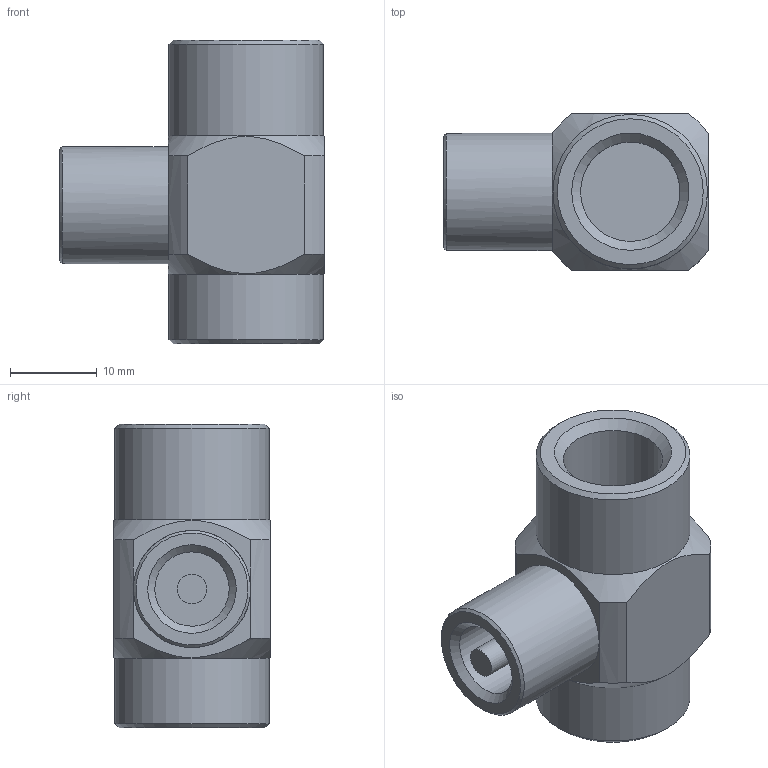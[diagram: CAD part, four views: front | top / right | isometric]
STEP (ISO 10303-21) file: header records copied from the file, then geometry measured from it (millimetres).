
FILE_DESCRIPTION(/* description */ ('GENERATORI DI VUOTO IN LINEA G1/8"'),/* implementation_level */ '2;1');
FILE_NAME(/* name */ 'C:\PNX_VAULTFOLDER\Area Tecnica\Disegni\VARIE-3D\Componenti\1900 (vuoto)\19M18_S_08_SS_L0.stp',/* time_stamp */ '2019-09-13T11:09:04+02:00',/* author */ ('maniean1'),/* organization */ ('Pneumax S.p.A.'),/* preprocessor_version */ 'ST-DEVELOPER v17',/* originating_system */ 'Autodesk Inventor 2019',/* authorisation */ '');
FILE_SCHEMA (('AUTOMOTIVE_DESIGN { 1 0 10303 214 3 1 1 }'));
Length unit declared in the file: millimetre
Products named in the file (1): 19M18.S.08.SS.L0
Bounding box: 30.5 x 18 x 35 mm (x, y, z)
Volume: 9140.6 mm3; surface area: 4157.8 mm2
Topology: 1 solids, 1 shells, 71 faces, 192 edges, 130 vertices
Faces by surface type: plane 27, bspline 25, cylinder 11, cone 8
Full cylindrical faces by diameter (mm): 3.4 x1, 8.566 x2, 11.445 x1, 13.5 x1, 17.8 x2
Entity records: 2577 total; most frequent: CARTESIAN_POINT 808, ORIENTED_EDGE 384, DIRECTION 272, EDGE_CURVE 192, VERTEX_POINT 130, AXIS2_PLACEMENT_3D 93, LINE 86, VECTOR 86
